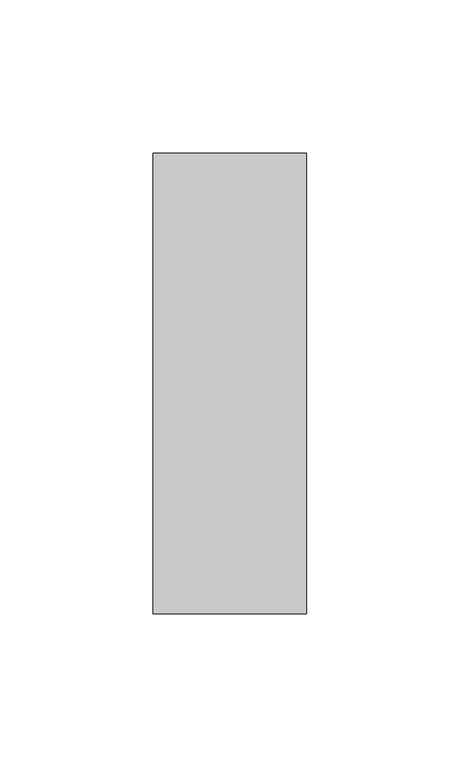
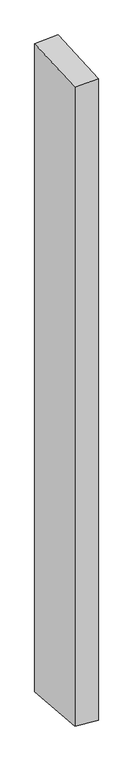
"""IFC4 building model written with IfcOpenShell, lengths in millimetres: member geometry, Прямоугольный импост : 50 x 150 мм."""

from ifc_helpers import new_model, si_unit, origin, place, context, project, spatial, faceted_brep, source, transform, mapped, element, save


def member_d30a859c(model_context):
    return source(origin(), model_context, "Body", "Brep", [
        faceted_brep([(-25.0, 75.0, 2.6513371), (25.0, 75.0, 5.3668623), (25.0, 75.0, -1470.9246351), (-25.0, 75.0, -1467.6716933), (-25.0, -75.0, -5.3668623), (-25.0, -75.0, -1455.9599573), (25.0, -75.0, -2.6513371), (25.0, -75.0, -1459.212899)], [[[0, 1, 2, 3]], [[4, 0, 3, 5]], [[6, 4, 5, 7]], [[1, 6, 7, 2]], [[1, 0, 4, 6]], [[2, 7, 5, 3]]]),
    ])


if __name__ == "__main__":
    model = new_model("IFC4")
    model_context = context("Model", 3, world=origin())
    ifc_project = project(units=[si_unit("LENGTHUNIT", "METRE", prefix="MILLI")], contexts=[model_context])
    site = spatial("IfcSite", under=ifc_project)
    building = spatial("IfcBuilding", under=site)
    placement = place(None, origin())
    member_shape = member_d30a859c(model_context)
    element("IfcMember", 1, ObjectType="Прямоугольный импост : 50 x 150 мм", at=placement, inside=building, context=model_context, shape_type="MappedRepresentation", body=[
        mapped(member_shape, transform((0.0, 0.0, 0.0), x_axis=(1.0, 0.0, 0.0), y_axis=(0.0, 1.0, 0.0), z_axis=(0.0, 0.0, 1.0))),
    ])
    save(model, "model.ifc")
